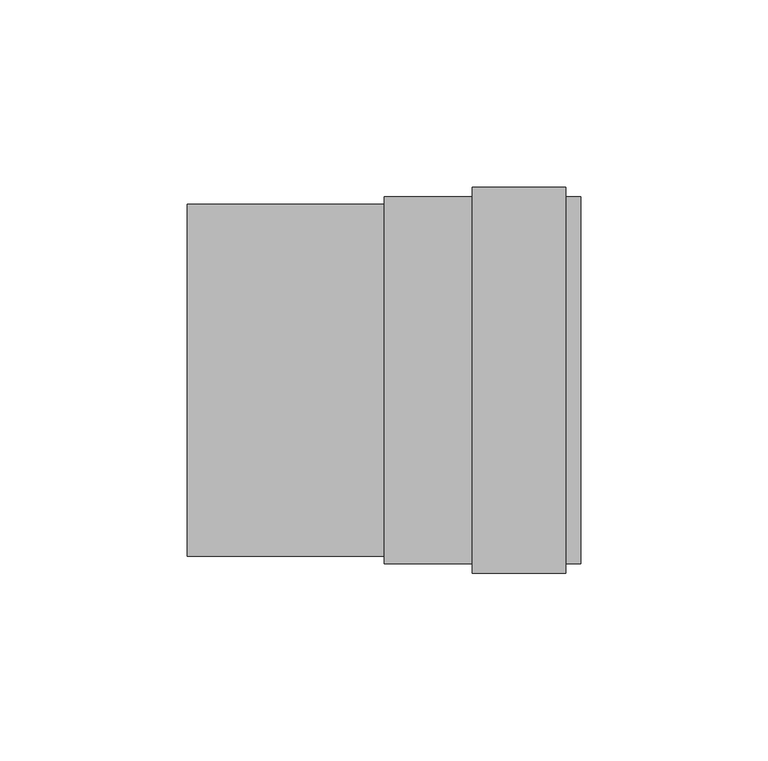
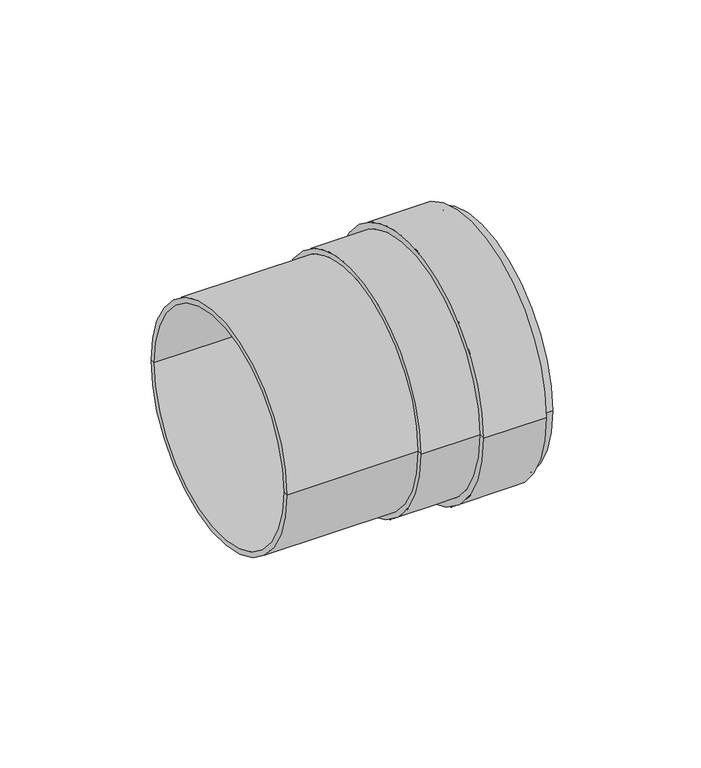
"""IFC4 building model written with IfcOpenShell, lengths in millimetres: duct fitting geometry, NLRS_57_DUF_UN_sleeve joint extended_M&G : ø75 ø92."""

from ifc_helpers import new_model, si_unit, frame, origin, place, context, project, spatial, polyline, circle_curve, source, transform, mapped, element, save
from ifc_brep_helpers import plane_surface, cylinder_surface, revolved_surface, advanced_brep


def duct_fitting_e7ea7663(model_context):
    return source(origin(), model_context, "Body", "AdvancedBrep", [
        advanced_brep(
        [(-52.5, -45.0, 0.0), (-52.5, 45.0, 0.0), (-52.5, 47.0, 0.0), (-52.5, -47.0, 0.0), (1.5, -47.0, 0.0), (1.5, 47.0, 0.0), (1.5, 45.0, 0.0), (1.5, -45.0, 0.0), (52.5, -47.0, 0.0), (52.5, 47.0, 0.0), (52.5, -49.0, 0.0), (52.5, 49.0, 0.0), (48.5, -49.0, 0.0), (48.5, 49.0, 0.0), (48.5, -51.5, 0.0), (48.5, 51.5, 0.0), (23.5, -51.5, 0.0), (23.5, 51.5, 0.0), (23.5, -49.0, 0.0), (23.5, 49.0, 0.0), (0.0, -49.0, 0.0), (0.0, 49.0, 0.0), (0.0, -47.0, 0.0), (0.0, 47.0, 0.0)],
        [
            (0, 1, circle_curve(frame((-52.5, 0.0, 0.0), z_axis=(1.0, 0.0, 0.0), x_axis=(0.0, 1.0, 0.0)), 45.0)),
            (1, 2),
            (2, 3, circle_curve(frame((-52.5, 0.0, 0.0), z_axis=(-1.0, 0.0, 0.0), x_axis=(0.0, 1.0, 0.0)), 47.0)),
            (3, 0),
            (1, 0, circle_curve(frame((-52.5, 0.0, 0.0), z_axis=(1.0, 0.0, 0.0), x_axis=(0.0, 1.0, 0.0)), 45.0)),
            (3, 2, circle_curve(frame((-52.5, 0.0, 0.0), z_axis=(-1.0, 0.0, 0.0), x_axis=(0.0, 1.0, 0.0)), 47.0)),
            (4, 5, circle_curve(frame((1.5, 0.0, 0.0), z_axis=(1.0, 0.0, 0.0), x_axis=(0.0, 1.0, 0.0)), 47.0)),
            (5, 6),
            (6, 7, circle_curve(frame((1.5, 0.0, 0.0), z_axis=(-1.0, 0.0, 0.0), x_axis=(0.0, 1.0, 0.0)), 45.0)),
            (7, 4),
            (5, 4, circle_curve(frame((1.5, 0.0, 0.0), z_axis=(1.0, 0.0, 0.0), x_axis=(0.0, 1.0, 0.0)), 47.0)),
            (7, 6, circle_curve(frame((1.5, 0.0, 0.0), z_axis=(-1.0, 0.0, 0.0), x_axis=(0.0, 1.0, 0.0)), 45.0)),
            (8, 9, circle_curve(frame((52.5, 0.0, 0.0), z_axis=(1.0, 0.0, 0.0), x_axis=(0.0, 1.0, 0.0)), 47.0)),
            (9, 5),
            (4, 8),
            (9, 8, circle_curve(frame((52.5, 0.0, 0.0), z_axis=(1.0, 0.0, 0.0), x_axis=(0.0, 1.0, 0.0)), 47.0)),
            (10, 11, circle_curve(frame((52.5, 0.0, 0.0), z_axis=(1.0, 0.0, 0.0), x_axis=(0.0, 1.0, 0.0)), 49.0)),
            (11, 9),
            (8, 10),
            (11, 10, circle_curve(frame((52.5, 0.0, 0.0), z_axis=(1.0, 0.0, 0.0), x_axis=(0.0, 1.0, 0.0)), 49.0)),
            (12, 13, circle_curve(frame((48.5, 0.0, 0.0), z_axis=(1.0, 0.0, 0.0), x_axis=(0.0, 1.0, 0.0)), 49.0)),
            (13, 11),
            (10, 12),
            (13, 12, circle_curve(frame((48.5, 0.0, 0.0), z_axis=(1.0, 0.0, 0.0), x_axis=(0.0, 1.0, 0.0)), 49.0)),
            (14, 15, circle_curve(frame((48.5, 0.0, 0.0), z_axis=(1.0, 0.0, 0.0), x_axis=(0.0, 1.0, 0.0)), 51.5)),
            (15, 13),
            (12, 14),
            (15, 14, circle_curve(frame((48.5, 0.0, 0.0), z_axis=(1.0, 0.0, 0.0), x_axis=(0.0, 1.0, 0.0)), 51.5)),
            (16, 17, circle_curve(frame((23.5, 0.0, 0.0), z_axis=(1.0, 0.0, 0.0), x_axis=(0.0, 1.0, 0.0)), 51.5)),
            (17, 15),
            (14, 16),
            (17, 16, circle_curve(frame((23.5, 0.0, 0.0), z_axis=(1.0, 0.0, 0.0), x_axis=(0.0, 1.0, 0.0)), 51.5)),
            (18, 19, circle_curve(frame((23.5, 0.0, 0.0), z_axis=(1.0, 0.0, 0.0), x_axis=(0.0, 1.0, 0.0)), 49.0)),
            (19, 17),
            (16, 18),
            (19, 18, circle_curve(frame((23.5, 0.0, 0.0), z_axis=(1.0, 0.0, 0.0), x_axis=(0.0, 1.0, 0.0)), 49.0)),
            (20, 21, circle_curve(frame((0.0, 0.0, 0.0), z_axis=(1.0, 0.0, 0.0), x_axis=(0.0, 1.0, 0.0)), 49.0)),
            (21, 19),
            (18, 20),
            (21, 20, circle_curve(frame((0.0, 0.0, 0.0), z_axis=(1.0, 0.0, 0.0), x_axis=(0.0, 1.0, 0.0)), 49.0)),
            (22, 23, circle_curve(frame((0.0, 0.0, 0.0), z_axis=(1.0, 0.0, 0.0), x_axis=(0.0, 1.0, 0.0)), 47.0)),
            (23, 21),
            (20, 22),
            (23, 22, circle_curve(frame((0.0, 0.0, 0.0), z_axis=(1.0, 0.0, 0.0), x_axis=(0.0, 1.0, 0.0)), 47.0)),
            (2, 23),
            (22, 3),
            (6, 1),
            (0, 7),
        ],
        [
            plane_surface(frame((-52.5, 0.0, 0.0), z_axis=(-1.0, 0.0, 0.0), x_axis=(0.0, 1.0, 0.0))),
            plane_surface(frame((1.5, 0.0, 0.0), z_axis=(1.0, 0.0, 0.0), x_axis=(0.0, 1.0, 0.0))),
            revolved_surface(polyline([(1.5, 47.0, 0.0), (52.5, 47.0, 0.0)]), (84.0, 0.0, 0.0), (-1.0, 0.0, 0.0)),
            plane_surface(frame((52.5, 0.0, 0.0), z_axis=(1.0, 0.0, 0.0), x_axis=(0.0, 1.0, 0.0))),
            cylinder_surface(frame((84.0, 0.0, 0.0), z_axis=(-1.0, 0.0, 0.0), x_axis=(0.0, 1.0, 0.0)), 49.0),
            plane_surface(frame((48.5, 0.0, 0.0), z_axis=(1.0, 0.0, 0.0), x_axis=(0.0, 1.0, 0.0))),
            cylinder_surface(frame((84.0, 0.0, 0.0), z_axis=(-1.0, 0.0, 0.0), x_axis=(0.0, 1.0, 0.0)), 51.5),
            plane_surface(frame((23.5, 0.0, 0.0), z_axis=(-1.0, 0.0, 0.0), x_axis=(0.0, 1.0, 0.0))),
            plane_surface(frame((0.0, 0.0, 0.0), z_axis=(-1.0, 0.0, 0.0), x_axis=(0.0, 1.0, 0.0))),
            cylinder_surface(frame((84.0, 0.0, 0.0), z_axis=(-1.0, 0.0, 0.0), x_axis=(0.0, 1.0, 0.0)), 47.0),
            revolved_surface(polyline([(-52.5, 45.0, 0.0), (1.5, 45.0, 0.0)]), (84.0, 0.0, 0.0), (-1.0, 0.0, 0.0)),
        ],
        [
            (0, [[1, 2, 3, 4]]),
            (0, [[5, -4, 6, -2]]),
            (1, [[7, 8, 9, 10]]),
            (1, [[11, -10, 12, -8]]),
            (2, [[13, 14, -7, 15]]),
            (2, [[16, -15, -11, -14]]),
            (3, [[17, 18, -13, 19]]),
            (3, [[20, -19, -16, -18]]),
            (4, [[21, 22, -17, 23]]),
            (4, [[24, -23, -20, -22]]),
            (5, [[25, 26, -21, 27]]),
            (5, [[28, -27, -24, -26]]),
            (6, [[29, 30, -25, 31]]),
            (6, [[32, -31, -28, -30]]),
            (7, [[33, 34, -29, 35]]),
            (7, [[36, -35, -32, -34]]),
            (4, [[37, 38, -33, 39]]),
            (4, [[40, -39, -36, -38]]),
            (8, [[41, 42, -37, 43]]),
            (8, [[44, -43, -40, -42]]),
            (9, [[-3, 45, -41, 46]]),
            (9, [[-6, -46, -44, -45]]),
            (10, [[-9, 47, -1, 48]]),
            (10, [[-12, -48, -5, -47]]),
        ],
    ),
    ])


if __name__ == "__main__":
    model = new_model("IFC4")
    model_context = context("Model", 3, world=origin())
    ifc_project = project(units=[si_unit("LENGTHUNIT", "METRE", prefix="MILLI")], contexts=[model_context])
    site = spatial("IfcSite", under=ifc_project)
    building = spatial("IfcBuilding", under=site)
    placement = place(None, origin())
    duct_fitting_shape = duct_fitting_e7ea7663(model_context)
    element("IfcDuctFitting", 1, ObjectType="NLRS_57_DUF_UN_sleeve joint extended_M&G : ø75 ø92", at=placement, inside=building, context=model_context, shape_type="MappedRepresentation", body=[
        mapped(duct_fitting_shape, transform((0.0, 0.0, 0.0), x_axis=(1.0, 0.0, 0.0), y_axis=(0.0, 1.0, 0.0), z_axis=(0.0, 0.0, 1.0))),
    ])
    save(model, "model.ifc")
